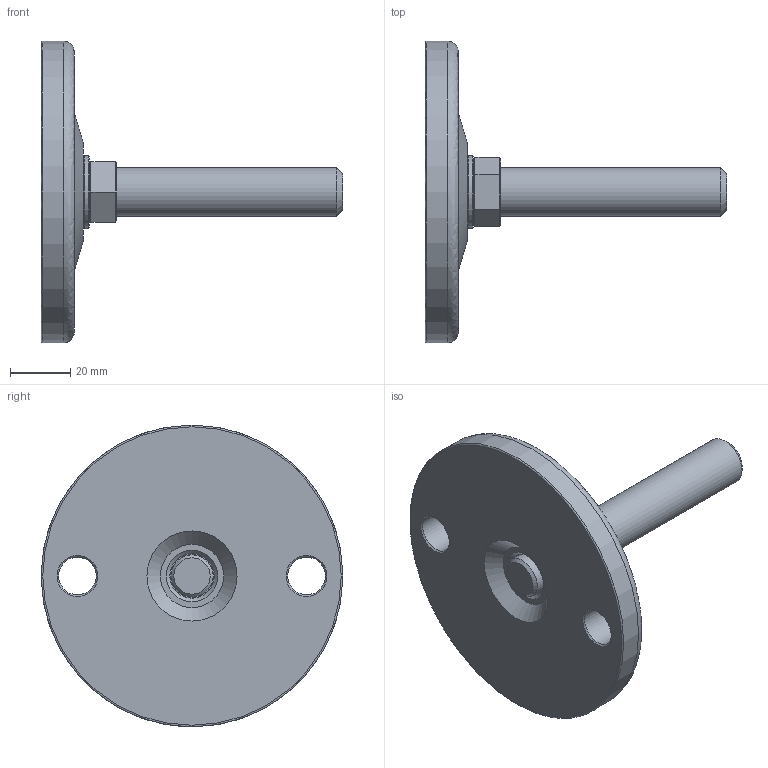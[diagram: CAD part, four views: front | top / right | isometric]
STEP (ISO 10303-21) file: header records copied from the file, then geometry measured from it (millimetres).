
FILE_DESCRIPTION(('STEP AP203'),'2;1');
FILE_NAME('15509.stp','2015-07-14T17:38:41',(''),(''),'2008.1.107','THINKDESIGN','');
FILE_SCHEMA(('CONFIG_CONTROL_DESIGN'));
Length unit declared in the file: millimetre
Bounding box: 100 x 100 x 100 mm (x, y, z)
Volume: 103913 mm3; surface area: 26448.6 mm2
Topology: 5 solids, 5 shells, 51 faces, 123 edges, 84 vertices
Faces by surface type: bspline 26, plane 18, cylinder 7
Full cylindrical faces by diameter (mm): 12.5 x2, 14 x1, 14.7 x1, 16 x1, 24 x1, 100 x1
Entity records: 2754 total; most frequent: CARTESIAN_POINT 1471, ORIENTED_EDGE 246, DIRECTION 236, EDGE_CURVE 123, AXIS2_PLACEMENT_3D 88, VERTEX_POINT 84, CIRCLE 63, VECTOR 60
